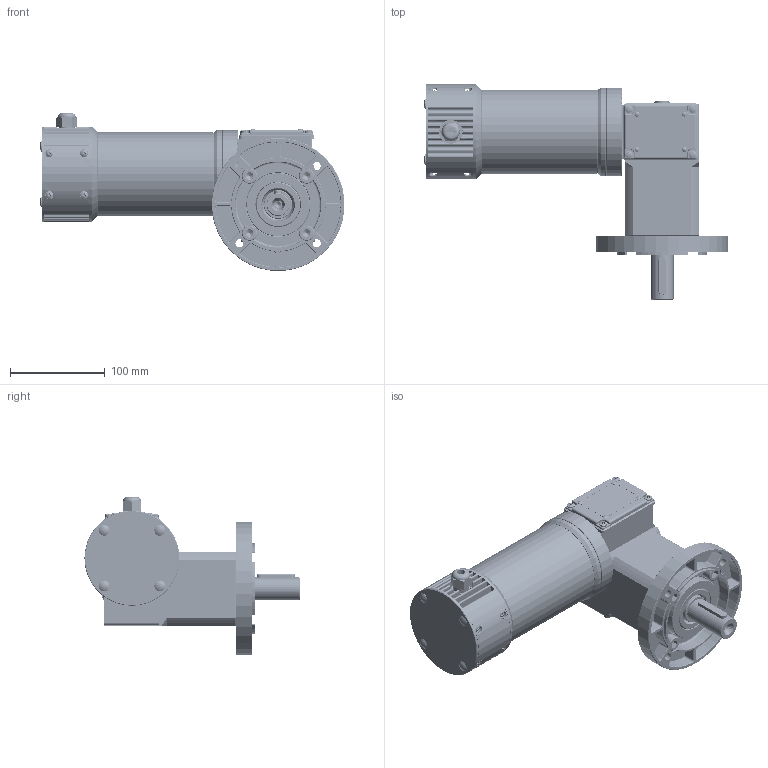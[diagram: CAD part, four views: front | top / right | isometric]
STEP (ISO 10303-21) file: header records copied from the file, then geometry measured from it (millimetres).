
FILE_DESCRIPTION((''),'2;1');
FILE_NAME('C:\Users\giuseppe.caruso.MINIMOTOR\Desktop\PCCE 24 MP4N 142,5 B5S.stp','2012-09-10T11:59:08',('giuseppe.caruso'),(''),'Autodesk Inventor 2013','Autodesk Inventor 2013','');
FILE_SCHEMA(('AUTOMOTIVE_DESIGN { 1 0 10303 214 1 1 1 1 }'));
Length unit declared in the file: millimetre
Products named in the file (40): PCCE 24 MP4N 142,5 B5S; CRT012; CRT022; ASA014; VCE1016; VCE555; CHI013; VCE512; VTC408; VCE420; VCE412; RIV014I; VTC410S; VSE412; ING301; ING291; ING290; ALR060; OR001; OR013; OR004; SPS125; SPS361; SRD091; CPR095; CPM005A; TRG001; STT032C; STT032; CUF047; CUF055; BOC001; GRN025; CUF051-CSA; FLG017; ANL029; SRD019; ALR064; TPP008; FLG015
Assembly tree (83 placements, depth 3):
  PCCE 24 MP4N 142,5 B5S
    CRT012
    CRT022
    ASA014
    VCE1016  x4
    VCE555  x4
    CHI013
    VCE512  x4
    VTC408  x8
    VCE420  x8
    VCE412  x4
    RIV014I  x4
    VTC410S  x4
    VSE412  x4
    ING301
    ING291
      ING290
      ALR060
    OR001  x3
    OR013
    OR004
    SPS125  x3
    SPS361
    SRD091
    CPR095
    CPM005A
    TRG001
    STT032C
      STT032
    CUF047
    CUF055
    BOC001
    GRN025  x2
    CUF051-CSA  x2
    FLG017
    ANL029
    SRD019
    ALR064
    TPP008  x4
    FLG015
Bounding box: 320.73 x 226.5 x 165.98 mm (x, y, z)
Volume: 1224684 mm3; surface area: 534992.8 mm2
Topology: 81 solids, 81 shells, 4101 faces, 10650 edges, 6805 vertices
Faces by surface type: plane 2249, cylinder 1234, cone 347, torus 207, sphere 56, bspline 8
Full cylindrical faces by diameter (mm): 1.7 x2, 2 x2, 2.459 x1, 2.6 x1, 2.7 x8, 3.242 x42, 3.4 x4, 3.8 x4, 3.813 x4, 4 x40, 4.134 x12, 4.2 x12, 4.5 x20, 5 x16, 5.1 x4, 5.5 x4, 6.647 x5, 6.85 x4, 7 x12, 7.5 x8, 8 x21, 8.376 x4, 8.5 x21, 9 x4, 9.85 x4, 10 x4, 10.5 x4, 12 x6, 13.4 x1, 14 x3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
Entity records: 95645 total; most frequent: CARTESIAN_POINT 18749, DIRECTION 16034, ORIENTED_EDGE 15092, EDGE_CURVE 7546, AXIS2_PLACEMENT_3D 5605, VERTEX_POINT 5079, VECTOR 4824, LINE 4824
